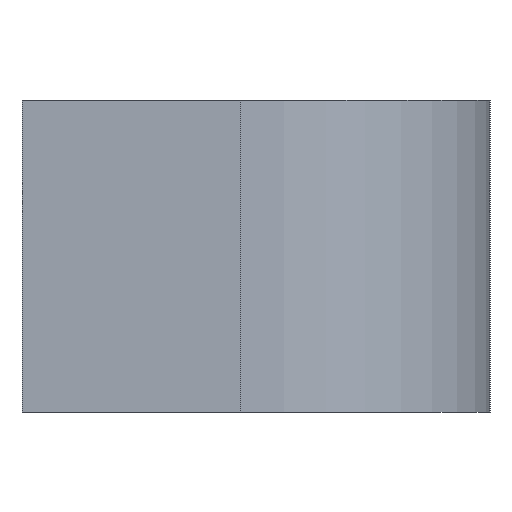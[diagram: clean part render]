
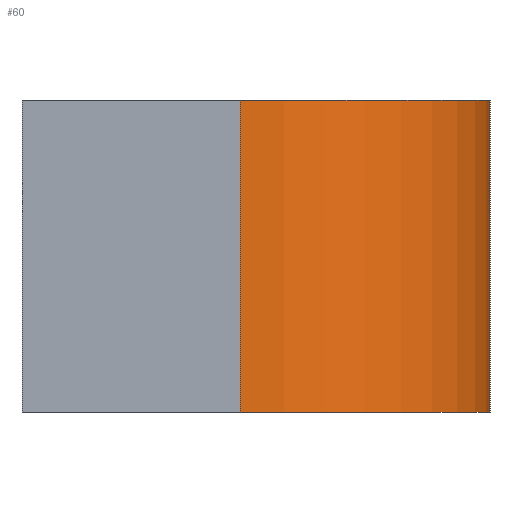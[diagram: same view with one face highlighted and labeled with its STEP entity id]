
A CAD part, left-side view. The second image highlights one B-rep face of the part: STEP entity #60.
In plain terms, the highlighted cylindrical face has radius 16 mm (diameter 32 mm), a partial arc.
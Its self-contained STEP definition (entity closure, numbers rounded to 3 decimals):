
#60 = ADVANCED_FACE( '', ( #123 ), #124, .T. );
#123 = FACE_OUTER_BOUND( '', #188, .T. );
#124 = CYLINDRICAL_SURFACE( '', #189, 16. );
#188 = EDGE_LOOP( '', ( #302, #303, #304, #305 ) );
#189 = AXIS2_PLACEMENT_3D( '', #306, #307, #308 );
#302 = ORIENTED_EDGE( '', *, *, #398, .T. );
#303 = ORIENTED_EDGE( '', *, *, #415, .F. );
#304 = ORIENTED_EDGE( '', *, *, #401, .F. );
#305 = ORIENTED_EDGE( '', *, *, #416, .T. );
#306 = CARTESIAN_POINT( '', ( 12., -14., 10. ) );
#307 = DIRECTION( '', ( 0., 0., 1. ) );
#308 = DIRECTION( '', ( -1., 0., 0. ) );
#398 = EDGE_CURVE( '', #463, #474, #476, .T. );
#401 = EDGE_CURVE( '', #479, #481, #482, .T. );
#415 = EDGE_CURVE( '', #481, #474, #499, .T. );
#416 = EDGE_CURVE( '', #479, #463, #500, .T. );
#463 = VERTEX_POINT( '', #559 );
#474 = VERTEX_POINT( '', #575 );
#476 = CIRCLE( '', #578, 16. );
#479 = VERTEX_POINT( '', #581 );
#481 = VERTEX_POINT( '', #584 );
#482 = CIRCLE( '', #585, 16. );
#499 = LINE( '', #610, #611 );
#500 = LINE( '', #612, #613 );
#559 = CARTESIAN_POINT( '', ( -4., -14., -10. ) );
#575 = CARTESIAN_POINT( '', ( 12., -30., -10. ) );
#578 = AXIS2_PLACEMENT_3D( '', #662, #663, #664 );
#581 = CARTESIAN_POINT( '', ( -4., -14., 10. ) );
#584 = CARTESIAN_POINT( '', ( 12., -30., 10. ) );
#585 = AXIS2_PLACEMENT_3D( '', #666, #667, #668 );
#610 = CARTESIAN_POINT( '', ( 12., -30., 10. ) );
#611 = VECTOR( '', #683, 1000. );
#612 = CARTESIAN_POINT( '', ( -4., -14., 10. ) );
#613 = VECTOR( '', #684, 1000. );
#662 = CARTESIAN_POINT( '', ( 12., -14., -10. ) );
#663 = DIRECTION( '', ( 0., 0., 1. ) );
#664 = DIRECTION( '', ( 1., 0., 0. ) );
#666 = CARTESIAN_POINT( '', ( 12., -14., 10. ) );
#667 = DIRECTION( '', ( 0., 0., 1. ) );
#668 = DIRECTION( '', ( 1., 0., 0. ) );
#683 = DIRECTION( '', ( 0., 0., -1. ) );
#684 = DIRECTION( '', ( 0., 0., -1. ) );
